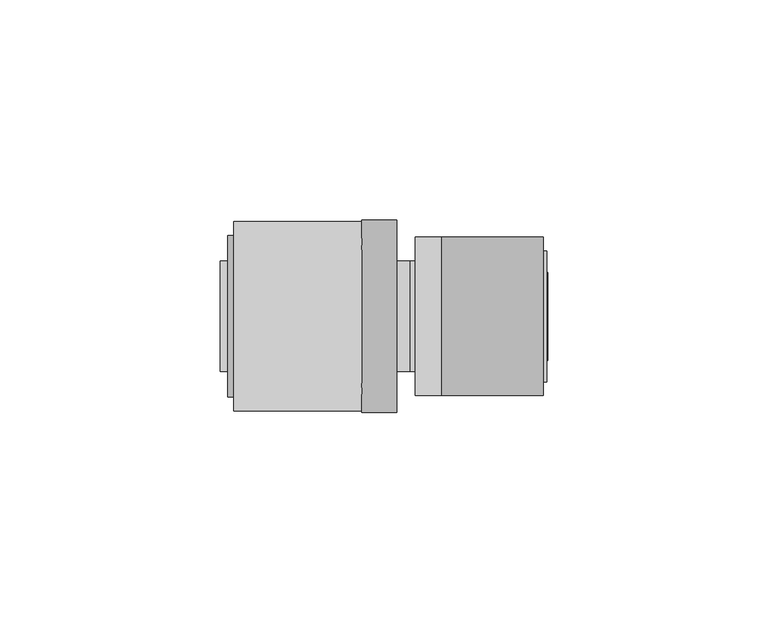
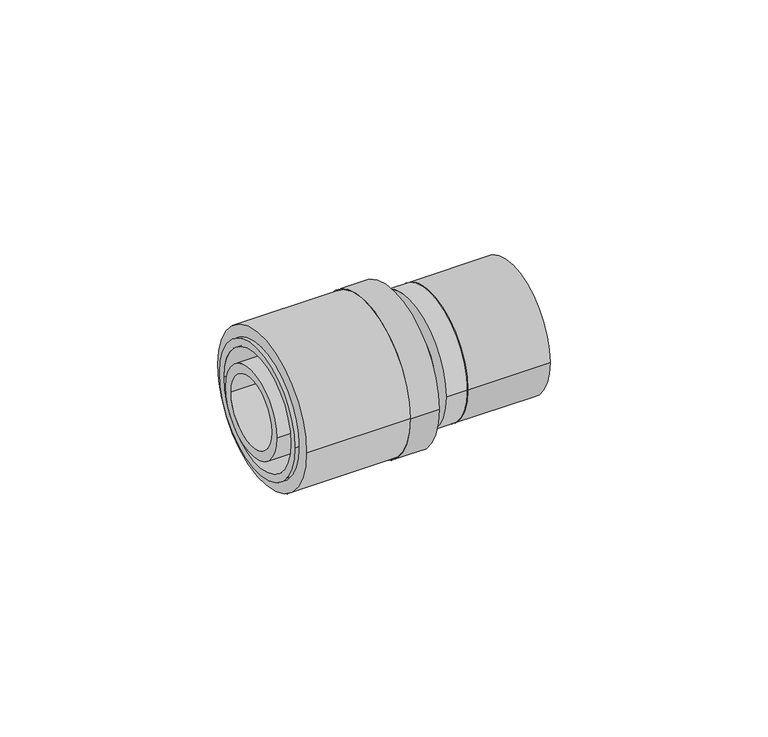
"""IFC4 building model written with IfcOpenShell, lengths in millimetres: pipe fitting geometry, FASTLOC_Coupling reduced LX : FSL C LX CZ."""

from ifc_helpers import new_model, si_unit, point, frame, origin, origin_2d, place, context, project, spatial, polyline, circle_curve, trimmed, segment, composite_curve, outline, extrude, source, transform, mapped, element, save
from ifc_brep_helpers import plane_surface, cylinder_surface, revolved_surface, advanced_brep


def pipe_fitting_d14a7251(model_context):
    return source(origin(), model_context, "Body", "SolidModel", [
        extrude(outline(composite_curve([segment(trimmed(circle_curve(origin_2d(), 18.0), [point((-18.0, 0.0))], [point((18.0, 0.0))], False, "CARTESIAN"), True, "CONTINUOUS"), segment(trimmed(circle_curve(origin_2d(), 18.0), [point((18.0, 0.0))], [point((-18.0, 0.0))], False, "CARTESIAN"), True, "CONTINUOUS")], self_intersect=False), holes=[composite_curve([segment(trimmed(circle_curve(origin_2d(), 13.5), [point((-13.5, 0.0))], [point((13.5, 0.0))], True, "CARTESIAN"), True, "CONTINUOUS"), segment(trimmed(circle_curve(origin_2d(), 13.5), [point((13.5, 0.0))], [point((-13.5, 0.0))], True, "CARTESIAN"), True, "CONTINUOUS")], self_intersect=False)]), frame((5.8, 0.0, 0.0), z_axis=(1.0, 0.0, 0.0), x_axis=(0.0, 1.0, 0.0)), (0.0, 0.0, 1.0), 23.0),
        advanced_brep(
        [(5.8, 18.0, 0.0), (5.8, -18.0, 0.0), (-0.2, -18.0, 0.0), (-0.2, 18.0, 0.0), (29.6, 14.85, 0.0), (29.6, -14.85, 0.0), (5.8, -14.85, 0.0), (5.8, 14.85, 0.0), (-0.2, 12.65, 0.0), (-0.2, -12.65, 0.0), (29.6, -12.65, 0.0), (29.6, 12.65, 0.0)],
        [
            (0, 1, circle_curve(frame((5.8, 0.0, 0.0), z_axis=(-1.0, 0.0, 0.0), x_axis=(0.0, -1.0, 0.0)), 18.0)),
            (1, 2),
            (2, 3, circle_curve(frame((-0.2, 0.0, 0.0), z_axis=(1.0, 0.0, 0.0), x_axis=(0.0, -1.0, 0.0)), 18.0)),
            (3, 0),
            (4, 5, circle_curve(frame((29.6, 0.0, 0.0), z_axis=(-1.0, 0.0, 0.0), x_axis=(0.0, -1.0, 0.0)), 14.85)),
            (5, 6),
            (6, 7, circle_curve(frame((5.8, 0.0, 0.0), z_axis=(1.0, 0.0, 0.0), x_axis=(0.0, -1.0, 0.0)), 14.85)),
            (7, 4),
            (8, 9, circle_curve(frame((-0.2, 0.0, 0.0), z_axis=(-1.0, 0.0, 0.0), x_axis=(0.0, -1.0, 0.0)), 12.65)),
            (9, 10),
            (10, 11, circle_curve(frame((29.6, 0.0, 0.0), z_axis=(1.0, 0.0, 0.0), x_axis=(0.0, -1.0, 0.0)), 12.65)),
            (11, 8),
            (1, 0, circle_curve(frame((5.8, 0.0, 0.0), z_axis=(-1.0, 0.0, 0.0), x_axis=(0.0, 1.0, 0.0)), 18.0)),
            (3, 2, circle_curve(frame((-0.2, 0.0, 0.0), z_axis=(1.0, 0.0, 0.0), x_axis=(0.0, 1.0, 0.0)), 18.0)),
            (6, 7, circle_curve(frame((5.8, 0.0, 0.0), z_axis=(-1.0, 0.0, 0.0), x_axis=(0.0, 1.0, 0.0)), 14.85)),
            (5, 4, circle_curve(frame((29.6, 0.0, 0.0), z_axis=(-1.0, 0.0, 0.0), x_axis=(0.0, 1.0, 0.0)), 14.85)),
            (10, 11, circle_curve(frame((29.6, 0.0, 0.0), z_axis=(-1.0, 0.0, 0.0), x_axis=(0.0, 1.0, 0.0)), 12.65)),
            (9, 8, circle_curve(frame((-0.2, 0.0, 0.0), z_axis=(-1.0, 0.0, 0.0), x_axis=(0.0, 1.0, 0.0)), 12.65)),
        ],
        [
            cylinder_surface(frame((-0.2, 0.0, 0.0), z_axis=(1.0, 0.0, 0.0), x_axis=(0.0, -1.0, 0.0)), 18.0),
            cylinder_surface(frame((-0.2, 0.0, 0.0), z_axis=(1.0, 0.0, 0.0), x_axis=(0.0, -1.0, 0.0)), 14.85),
            revolved_surface(polyline([(29.6, -12.65, 0.0), (-0.2, -12.65, 0.0)]), (-0.2, 0.0, 0.0), (1.0, 0.0, 0.0)),
            cylinder_surface(frame((-0.2, 0.0, 0.0), z_axis=(1.0, 0.0, 0.0), x_axis=(0.0, 1.0, 0.0)), 18.0),
            plane_surface(frame((5.8, 0.0, 0.0), z_axis=(1.0, 0.0, 0.0), x_axis=(0.0, 1.0, 0.0))),
            cylinder_surface(frame((-0.2, 0.0, 0.0), z_axis=(1.0, 0.0, 0.0), x_axis=(0.0, 1.0, 0.0)), 14.85),
            plane_surface(frame((29.6, 0.0, 0.0), z_axis=(1.0, 0.0, 0.0), x_axis=(0.0, 1.0, 0.0))),
            revolved_surface(polyline([(29.6, 12.65, 0.0), (-0.2, 12.65, 0.0)]), (-0.2, 0.0, 0.0), (1.0, 0.0, 0.0)),
            plane_surface(frame((-0.2, 0.0, 0.0), z_axis=(-1.0, 0.0, 0.0), x_axis=(0.0, 1.0, 0.0))),
        ],
        [
            (0, [[1, 2, 3, 4]]),
            (1, [[5, 6, 7, 8]]),
            (2, [[9, 10, 11, 12]]),
            (3, [[13, -4, 14, -2]]),
            (4, [[-13, -1], [15, -7]]),
            (5, [[16, -8, -15, -6]]),
            (6, [[-16, -5], [17, -11]]),
            (7, [[18, -12, -17, -10]]),
            (8, [[-14, -3], [-18, -9]]),
        ],
    ),
        extrude(outline(composite_curve([segment(trimmed(circle_curve(origin_2d(), 21.5), [point((21.5, 0.0))], [point((-21.5, 0.0))], False, "CARTESIAN"), True, "CONTINUOUS"), segment(trimmed(circle_curve(origin_2d(), 21.5), [point((-21.5, 0.0))], [point((21.5, 0.0))], False, "CARTESIAN"), True, "CONTINUOUS")], self_intersect=False), holes=[composite_curve([segment(trimmed(circle_curve(origin_2d(), 16.85), [point((16.85, 0.0))], [point((-16.85, 0.0))], True, "CARTESIAN"), True, "CONTINUOUS"), segment(trimmed(circle_curve(origin_2d(), 16.85), [point((-16.85, 0.0))], [point((16.85, 0.0))], True, "CARTESIAN"), True, "CONTINUOUS")], self_intersect=False)]), frame((-41.4, 0.0, 0.0), z_axis=(1.0, 0.0, 0.0), x_axis=(0.0, 1.0, 0.0)), (0.0, 0.0, 1.0), 29.0),
        advanced_brep(
        [(-12.4, -21.8, 0.0), (-12.4, 21.8, 0.0), (-4.4, 21.8, 0.0), (-4.4, -21.8, 0.0), (-42.7, -18.35, 0.0), (-42.7, 18.35, 0.0), (-12.4, 18.35, 0.0), (-12.4, -18.35, 0.0), (-4.4, -16.2, 0.0), (-4.4, 16.2, 0.0), (-42.7, 16.2, 0.0), (-42.7, -16.2, 0.0)],
        [
            (0, 1, circle_curve(frame((-12.4, 0.0, 0.0), z_axis=(1.0, 0.0, 0.0), x_axis=(0.0, 1.0, 0.0)), 21.8)),
            (1, 2),
            (2, 3, circle_curve(frame((-4.4, 0.0, 0.0), z_axis=(-1.0, 0.0, 0.0), x_axis=(0.0, 1.0, 0.0)), 21.8)),
            (3, 0),
            (4, 5, circle_curve(frame((-42.7, 0.0, 0.0), z_axis=(1.0, 0.0, 0.0), x_axis=(0.0, 1.0, 0.0)), 18.35)),
            (5, 6),
            (6, 7, circle_curve(frame((-12.4, 0.0, 0.0), z_axis=(-1.0, 0.0, 0.0), x_axis=(0.0, 1.0, 0.0)), 18.35)),
            (7, 4),
            (8, 9, circle_curve(frame((-4.4, 0.0, 0.0), z_axis=(1.0, 0.0, 0.0), x_axis=(0.0, 1.0, 0.0)), 16.2)),
            (9, 10),
            (10, 11, circle_curve(frame((-42.7, 0.0, 0.0), z_axis=(-1.0, 0.0, 0.0), x_axis=(0.0, 1.0, 0.0)), 16.2)),
            (11, 8),
            (1, 0, circle_curve(frame((-12.4, 0.0, 0.0), z_axis=(1.0, 0.0, 0.0), x_axis=(0.0, -1.0, 0.0)), 21.8)),
            (3, 2, circle_curve(frame((-4.4, 0.0, 0.0), z_axis=(-1.0, 0.0, 0.0), x_axis=(0.0, -1.0, 0.0)), 21.8)),
            (6, 7, circle_curve(frame((-12.4, 0.0, 0.0), z_axis=(1.0, 0.0, 0.0), x_axis=(0.0, -1.0, 0.0)), 18.35)),
            (5, 4, circle_curve(frame((-42.7, 0.0, 0.0), z_axis=(1.0, 0.0, 0.0), x_axis=(0.0, -1.0, 0.0)), 18.35)),
            (10, 11, circle_curve(frame((-42.7, 0.0, 0.0), z_axis=(1.0, 0.0, 0.0), x_axis=(0.0, -1.0, 0.0)), 16.2)),
            (9, 8, circle_curve(frame((-4.4, 0.0, 0.0), z_axis=(1.0, 0.0, 0.0), x_axis=(0.0, -1.0, 0.0)), 16.2)),
        ],
        [
            cylinder_surface(frame((-4.4, 0.0, 0.0), z_axis=(-1.0, 0.0, 0.0), x_axis=(0.0, 1.0, 0.0)), 21.8),
            cylinder_surface(frame((-4.4, 0.0, 0.0), z_axis=(-1.0, 0.0, 0.0), x_axis=(0.0, 1.0, 0.0)), 18.35),
            revolved_surface(polyline([(-42.7, 16.2, 0.0), (-4.4, 16.2, 0.0)]), (-4.4, 0.0, 0.0), (-1.0, 0.0, 0.0)),
            cylinder_surface(frame((-4.4, 0.0, 0.0), z_axis=(-1.0, 0.0, 0.0), x_axis=(0.0, -1.0, 0.0)), 21.8),
            plane_surface(frame((-12.4, 0.0, 0.0), z_axis=(-1.0, 0.0, 0.0), x_axis=(0.0, -1.0, 0.0))),
            cylinder_surface(frame((-4.4, 0.0, 0.0), z_axis=(-1.0, 0.0, 0.0), x_axis=(0.0, -1.0, 0.0)), 18.35),
            plane_surface(frame((-42.7, 0.0, 0.0), z_axis=(-1.0, 0.0, 0.0), x_axis=(0.0, -1.0, 0.0))),
            revolved_surface(polyline([(-42.7, -16.2, 0.0), (-4.4, -16.2, 0.0)]), (-4.4, 0.0, 0.0), (-1.0, 0.0, 0.0)),
            plane_surface(frame((-4.4, 0.0, 0.0), z_axis=(1.0, 0.0, 0.0), x_axis=(0.0, -1.0, 0.0))),
        ],
        [
            (0, [[1, 2, 3, 4]]),
            (1, [[5, 6, 7, 8]]),
            (2, [[9, 10, 11, 12]]),
            (3, [[13, -4, 14, -2]]),
            (4, [[-13, -1], [15, -7]]),
            (5, [[16, -8, -15, -6]]),
            (6, [[-16, -5], [17, -11]]),
            (7, [[18, -12, -17, -10]]),
            (8, [[-14, -3], [-18, -9]]),
        ],
    ),
        advanced_brep(
        [(-1.5, 12.5, 0.0), (-1.5, -12.5, 0.0), (-9.4, -12.5, 0.0), (-9.4, 12.5, 0.0), (-9.4, 14.1, 0.0), (-9.4, -14.1, 0.0), (-12.4, -14.1, 0.0), (-12.4, 14.1, 0.0), (-12.4, 12.5, 0.0), (-12.4, -12.5, 0.0), (-44.4, -12.5, 0.0), (-44.4, 12.5, 0.0), (-44.4, 9.85, 0.0), (-44.4, -9.85, 0.0), (-1.5, -9.85, 0.0), (-1.5, 9.85, 0.0), (-1.5, 7.75, 0.0), (-1.5, -7.75, 0.0), (29.8, -7.75, 0.0), (29.8, 7.75, 0.0), (29.8, 9.9729189, 0.0), (29.8, -9.9729189, 0.0), (5.8, -9.9729189, 0.0), (5.8, 9.9729189, 0.0), (5.8, 11.5, 0.0), (5.8, -11.5, 0.0), (3.0, -11.5, 0.0), (3.0, 11.5, 0.0), (3.0, 10.0, 0.0), (3.0, -10.0, 0.0), (2.0, -10.0, 0.0), (2.0, 10.0, 0.0), (2.0, 12.5, 0.0), (2.0, -12.5, 0.0)],
        [
            (0, 1, circle_curve(frame((-1.5, 0.0, 0.0), z_axis=(-1.0, 0.0, 0.0), x_axis=(0.0, -1.0, 0.0)), 12.5)),
            (1, 2),
            (2, 3, circle_curve(frame((-9.4, 0.0, 0.0), z_axis=(1.0, 0.0, 0.0), x_axis=(0.0, -1.0, 0.0)), 12.5)),
            (3, 0),
            (4, 5, circle_curve(frame((-9.4, 0.0, 0.0), z_axis=(-1.0, 0.0, 0.0), x_axis=(0.0, -1.0, 0.0)), 14.1)),
            (5, 6),
            (6, 7, circle_curve(frame((-12.4, 0.0, 0.0), z_axis=(1.0, 0.0, 0.0), x_axis=(0.0, -1.0, 0.0)), 14.1)),
            (7, 4),
            (8, 9, circle_curve(frame((-12.4, 0.0, 0.0), z_axis=(-1.0, 0.0, 0.0), x_axis=(0.0, -1.0, 0.0)), 12.5)),
            (9, 10),
            (10, 11, circle_curve(frame((-44.4, 0.0, 0.0), z_axis=(1.0, 0.0, 0.0), x_axis=(0.0, -1.0, 0.0)), 12.5)),
            (11, 8),
            (12, 13, circle_curve(frame((-44.4, 0.0, 0.0), z_axis=(-1.0, 0.0, 0.0), x_axis=(0.0, -1.0, 0.0)), 9.85)),
            (13, 14),
            (14, 15, circle_curve(frame((-1.5, 0.0, 0.0), z_axis=(1.0, 0.0, 0.0), x_axis=(0.0, -1.0, 0.0)), 9.85)),
            (15, 12),
            (1, 0, circle_curve(frame((-1.5, 0.0, 0.0), z_axis=(-1.0, 0.0, 0.0), x_axis=(0.0, 1.0, 0.0)), 12.5)),
            (3, 2, circle_curve(frame((-9.4, 0.0, 0.0), z_axis=(1.0, 0.0, 0.0), x_axis=(0.0, 1.0, 0.0)), 12.5)),
            (4, 5, circle_curve(frame((-9.4, 0.0, 0.0), z_axis=(1.0, 0.0, 0.0), x_axis=(0.0, 1.0, 0.0)), 14.1)),
            (7, 6, circle_curve(frame((-12.4, 0.0, 0.0), z_axis=(1.0, 0.0, 0.0), x_axis=(0.0, 1.0, 0.0)), 14.1)),
            (8, 9, circle_curve(frame((-12.4, 0.0, 0.0), z_axis=(1.0, 0.0, 0.0), x_axis=(0.0, 1.0, 0.0)), 12.5)),
            (11, 10, circle_curve(frame((-44.4, 0.0, 0.0), z_axis=(1.0, 0.0, 0.0), x_axis=(0.0, 1.0, 0.0)), 12.5)),
            (12, 13, circle_curve(frame((-44.4, 0.0, 0.0), z_axis=(1.0, 0.0, 0.0), x_axis=(0.0, 1.0, 0.0)), 9.85)),
            (15, 14, circle_curve(frame((-1.5, 0.0, 0.0), z_axis=(1.0, 0.0, 0.0), x_axis=(0.0, 1.0, 0.0)), 9.85)),
            (16, 17, circle_curve(frame((-1.5, 0.0, 0.0), z_axis=(-1.0, 0.0, 0.0), x_axis=(0.0, -1.0, 0.0)), 7.75)),
            (17, 18),
            (18, 19, circle_curve(frame((29.8, 0.0, 0.0), z_axis=(1.0, 0.0, 0.0), x_axis=(0.0, -1.0, 0.0)), 7.75)),
            (19, 16),
            (20, 21, circle_curve(frame((29.8, 0.0, 0.0), z_axis=(-1.0, 0.0, 0.0), x_axis=(0.0, -1.0, 0.0)), 9.9729189)),
            (21, 22),
            (22, 23, circle_curve(frame((5.8, 0.0, 0.0), z_axis=(1.0, 0.0, 0.0), x_axis=(0.0, -1.0, 0.0)), 9.9729189)),
            (23, 20),
            (24, 25, circle_curve(frame((5.8, 0.0, 0.0), z_axis=(-1.0, 0.0, 0.0), x_axis=(0.0, -1.0, 0.0)), 11.5)),
            (25, 26),
            (26, 27, circle_curve(frame((3.0, 0.0, 0.0), z_axis=(1.0, 0.0, 0.0), x_axis=(0.0, -1.0, 0.0)), 11.5)),
            (27, 24),
            (28, 29, circle_curve(frame((3.0, 0.0, 0.0), z_axis=(-1.0, 0.0, 0.0), x_axis=(0.0, -1.0, 0.0)), 10.0)),
            (29, 30),
            (30, 31, circle_curve(frame((2.0, 0.0, 0.0), z_axis=(1.0, 0.0, 0.0), x_axis=(0.0, -1.0, 0.0)), 10.0)),
            (31, 28),
            (32, 33, circle_curve(frame((2.0, 0.0, 0.0), z_axis=(-1.0, 0.0, 0.0), x_axis=(0.0, -1.0, 0.0)), 12.5)),
            (33, 1),
            (0, 32),
            (16, 17, circle_curve(frame((-1.5, 0.0, 0.0), z_axis=(1.0, 0.0, 0.0), x_axis=(0.0, 1.0, 0.0)), 7.75)),
            (19, 18, circle_curve(frame((29.8, 0.0, 0.0), z_axis=(1.0, 0.0, 0.0), x_axis=(0.0, 1.0, 0.0)), 7.75)),
            (20, 21, circle_curve(frame((29.8, 0.0, 0.0), z_axis=(1.0, 0.0, 0.0), x_axis=(0.0, 1.0, 0.0)), 9.9729189)),
            (23, 22, circle_curve(frame((5.8, 0.0, 0.0), z_axis=(1.0, 0.0, 0.0), x_axis=(0.0, 1.0, 0.0)), 9.9729189)),
            (24, 25, circle_curve(frame((5.8, 0.0, 0.0), z_axis=(1.0, 0.0, 0.0), x_axis=(0.0, 1.0, 0.0)), 11.5)),
            (27, 26, circle_curve(frame((3.0, 0.0, 0.0), z_axis=(1.0, 0.0, 0.0), x_axis=(0.0, 1.0, 0.0)), 11.5)),
            (28, 29, circle_curve(frame((3.0, 0.0, 0.0), z_axis=(1.0, 0.0, 0.0), x_axis=(0.0, 1.0, 0.0)), 10.0)),
            (31, 30, circle_curve(frame((2.0, 0.0, 0.0), z_axis=(1.0, 0.0, 0.0), x_axis=(0.0, 1.0, 0.0)), 10.0)),
            (32, 33, circle_curve(frame((2.0, 0.0, 0.0), z_axis=(1.0, 0.0, 0.0), x_axis=(0.0, 1.0, 0.0)), 12.5)),
        ],
        [
            cylinder_surface(frame((0.0, 0.0, 0.0), z_axis=(1.0, 0.0, 0.0), x_axis=(0.0, -1.0, 0.0)), 12.5),
            cylinder_surface(frame((0.0, 0.0, 0.0), z_axis=(1.0, 0.0, 0.0), x_axis=(0.0, -1.0, 0.0)), 14.1),
            revolved_surface(polyline([(-1.5, -9.85, 0.0), (-44.4, -9.85, 0.0)]), (0.0, 0.0, 0.0), (1.0, 0.0, 0.0)),
            cylinder_surface(frame((0.0, 0.0, 0.0), z_axis=(1.0, 0.0, 0.0), x_axis=(0.0, 1.0, 0.0)), 12.5),
            plane_surface(frame((-9.4, 0.0, 0.0), z_axis=(1.0, 0.0, 0.0), x_axis=(0.0, 1.0, 0.0))),
            cylinder_surface(frame((0.0, 0.0, 0.0), z_axis=(1.0, 0.0, 0.0), x_axis=(0.0, 1.0, 0.0)), 14.1),
            plane_surface(frame((-12.4, 0.0, 0.0), z_axis=(-1.0, 0.0, 0.0), x_axis=(0.0, 1.0, 0.0))),
            plane_surface(frame((-44.4, 0.0, 0.0), z_axis=(-1.0, 0.0, 0.0), x_axis=(0.0, 1.0, 0.0))),
            revolved_surface(polyline([(-1.5, 9.85, 0.0), (-44.4, 9.85, 0.0)]), (0.0, 0.0, 0.0), (1.0, 0.0, 0.0)),
            revolved_surface(polyline([(29.8, -7.75, 0.0), (-1.5, -7.75, 0.0)]), (0.0, 0.0, 0.0), (1.0, 0.0, 0.0)),
            cylinder_surface(frame((0.0, 0.0, 0.0), z_axis=(1.0, 0.0, 0.0), x_axis=(0.0, -1.0, 0.0)), 9.9729189),
            cylinder_surface(frame((0.0, 0.0, 0.0), z_axis=(1.0, 0.0, 0.0), x_axis=(0.0, -1.0, 0.0)), 11.5),
            cylinder_surface(frame((0.0, 0.0, 0.0), z_axis=(1.0, 0.0, 0.0), x_axis=(0.0, -1.0, 0.0)), 10.0),
            plane_surface(frame((-1.5, 0.0, 0.0), z_axis=(-1.0, 0.0, 0.0), x_axis=(0.0, 1.0, 0.0))),
            revolved_surface(polyline([(29.8, 7.75, 0.0), (-1.5, 7.75, 0.0)]), (0.0, 0.0, 0.0), (1.0, 0.0, 0.0)),
            plane_surface(frame((29.8, 0.0, 0.0), z_axis=(1.0, 0.0, 0.0), x_axis=(0.0, 1.0, 0.0))),
            cylinder_surface(frame((0.0, 0.0, 0.0), z_axis=(1.0, 0.0, 0.0), x_axis=(0.0, 1.0, 0.0)), 9.9729189),
            plane_surface(frame((5.8, 0.0, 0.0), z_axis=(1.0, 0.0, 0.0), x_axis=(0.0, 1.0, 0.0))),
            cylinder_surface(frame((0.0, 0.0, 0.0), z_axis=(1.0, 0.0, 0.0), x_axis=(0.0, 1.0, 0.0)), 11.5),
            plane_surface(frame((3.0, 0.0, 0.0), z_axis=(-1.0, 0.0, 0.0), x_axis=(0.0, 1.0, 0.0))),
            cylinder_surface(frame((0.0, 0.0, 0.0), z_axis=(1.0, 0.0, 0.0), x_axis=(0.0, 1.0, 0.0)), 10.0),
            plane_surface(frame((2.0, 0.0, 0.0), z_axis=(1.0, 0.0, 0.0), x_axis=(0.0, 1.0, 0.0))),
        ],
        [
            (0, [[1, 2, 3, 4]]),
            (1, [[5, 6, 7, 8]]),
            (0, [[9, 10, 11, 12]]),
            (2, [[13, 14, 15, 16]]),
            (3, [[17, -4, 18, -2]]),
            (4, [[19, -5], [-18, -3]]),
            (5, [[-19, -8, 20, -6]]),
            (6, [[-20, -7], [21, -9]]),
            (3, [[-21, -12, 22, -10]]),
            (7, [[-22, -11], [23, -13]]),
            (8, [[-23, -16, 24, -14]]),
            (9, [[25, 26, 27, 28]]),
            (10, [[29, 30, 31, 32]]),
            (11, [[33, 34, 35, 36]]),
            (12, [[37, 38, 39, 40]]),
            (0, [[41, 42, -1, 43]]),
            (13, [[-24, -15], [44, -25]]),
            (14, [[-44, -28, 45, -26]]),
            (15, [[46, -29], [-45, -27]]),
            (16, [[-46, -32, 47, -30]]),
            (17, [[48, -33], [-47, -31]]),
            (18, [[-48, -36, 49, -34]]),
            (19, [[-49, -35], [50, -37]]),
            (20, [[-50, -40, 51, -38]]),
            (21, [[52, -41], [-51, -39]]),
            (3, [[-52, -43, -17, -42]]),
        ],
    ),
    ])


if __name__ == "__main__":
    model = new_model("IFC4")
    model_context = context("Model", 3, world=origin())
    ifc_project = project(units=[si_unit("LENGTHUNIT", "METRE", prefix="MILLI")], contexts=[model_context])
    site = spatial("IfcSite", under=ifc_project)
    building = spatial("IfcBuilding", under=site)
    placement = place(None, origin())
    pipe_fitting_shape = pipe_fitting_d14a7251(model_context)
    element("IfcPipeFitting", 1, ObjectType="FASTLOC_Coupling reduced LX : FSL C LX CZ", at=placement, inside=building, context=model_context, shape_type="MappedRepresentation", body=[
        mapped(pipe_fitting_shape, transform((0.0, 0.0, 0.0), x_axis=(1.0, 0.0, 0.0), y_axis=(0.0, 1.0, 0.0), z_axis=(0.0, 0.0, 1.0))),
    ])
    save(model, "model.ifc")
